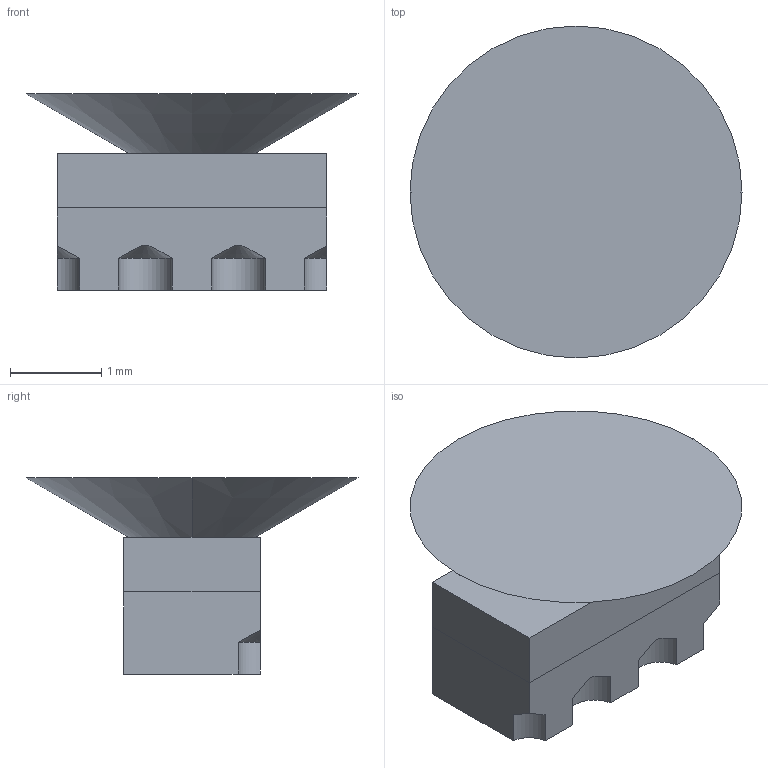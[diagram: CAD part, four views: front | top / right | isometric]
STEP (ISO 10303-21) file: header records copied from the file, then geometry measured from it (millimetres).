
FILE_DESCRIPTION((''),'2;1');
FILE_NAME('A3OZ_FOV60_ASM','2018-12-10T12:50:48',('Capella_ONE'),(''),'CREO PARAMETRIC BY PTC INC, 2016390','CREO PARAMETRIC BY PTC INC, 2016390','');
FILE_SCHEMA(('AUTOMOTIVE_DESIGN { 1 0 10303 214 1 1 1 1 }'));
Length unit declared in the file: millimetre
Products named in the file (5): MSBR-3_1; MSBR-2_1; MSBR-1_1; CM32183A3OZ_FOV60_ASM_1_ASM; A3OZ_FOV60_ASM
Assembly tree (4 placements, depth 3):
  A3OZ_FOV60_ASM
    CM32183A3OZ_FOV60_ASM_1_ASM
      MSBR-3_1
      MSBR-2_1
      MSBR-1_1
Bounding box: 3.64 x 3.64 x 2.15 mm (x, y, z)
Volume: 10.1 mm3; surface area: 53 mm2
Topology: 3 solids, 3 shells, 29 faces, 90 edges, 68 vertices
Faces by surface type: plane 19, cone 6, cylinder 4
Entity records: 2093 total; most frequent: CARTESIAN_POINT 406, DIRECTION 307, ORIENTED_EDGE 132, AXIS2_PLACEMENT_3D 107, VECTOR 79, LINE 79, EDGE_CURVE 66, PROPERTY_DEFINITION 58
